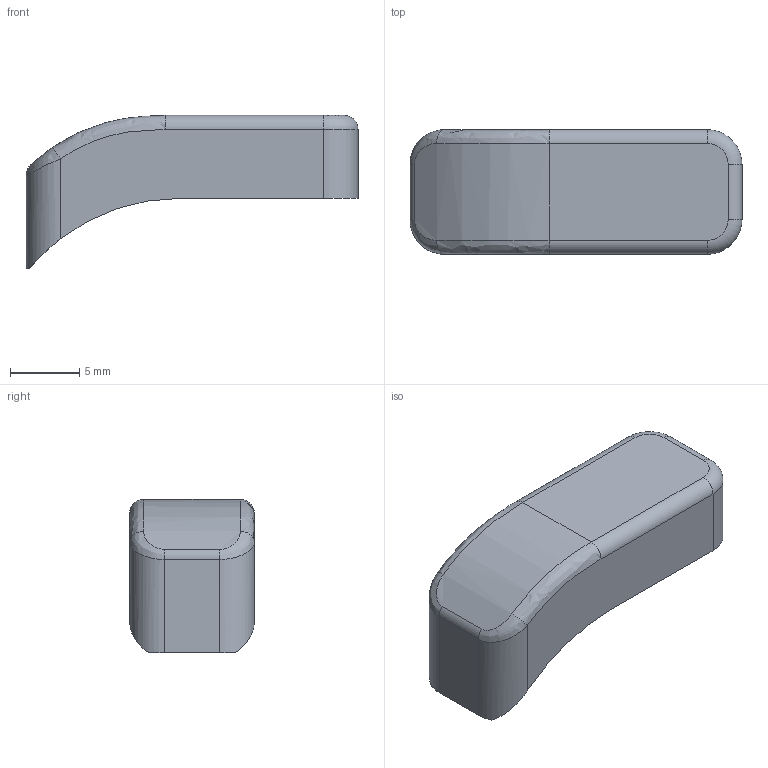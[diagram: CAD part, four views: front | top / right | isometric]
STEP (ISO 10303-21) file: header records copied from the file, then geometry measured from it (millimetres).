
FILE_DESCRIPTION(/* description */ ('STEP AP242','CAx-IF Rec.Pracs.---Representation and Presentation of Product Manufacturing Information (PMI)---4.0---2014-10-13','CAx-IF Rec.Pracs.---3D Tessellated Geometry---0.4---2014-09-14','2;1'),/* implementation_level */ '2;1');
FILE_NAME(/* name */ '686616c18d54b807f87f5823',/* time_stamp */ '2025-07-03T05:36:02Z',/* author */ (''),/* organization */ (''),/* preprocessor_version */ 'ST-DEVELOPER v20',/* originating_system */ 'ONSHAPE BY PTC INC, 1.200',/* authorisation */ ' ');
FILE_SCHEMA (('AP242_MANAGED_MODEL_BASED_3D_ENGINEERING_MIM_LF { 1 0 10303 442 1 1 4 }'));
Length unit declared in the file: metre
Products named in the file (1): Part 1
Bounding box: 24 x 9 x 11.07 mm (x, y, z)
Volume: 1264.9 mm3; surface area: 853.9 mm2
Topology: 1 solids, 1 shells, 28 faces, 65 edges, 40 vertices
Faces by surface type: plane 12, cylinder 9, bspline 5, torus 2
Entity records: 883 total; most frequent: CARTESIAN_POINT 245, ORIENTED_EDGE 130, DIRECTION 123, EDGE_CURVE 65, AXIS2_PLACEMENT_3D 44, VERTEX_POINT 40, LINE 35, VECTOR 35
